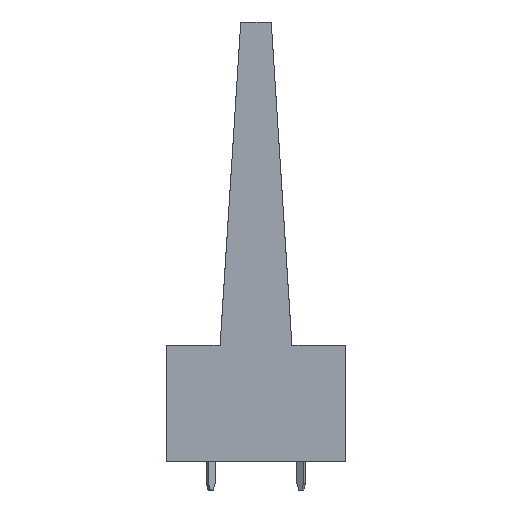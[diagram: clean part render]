
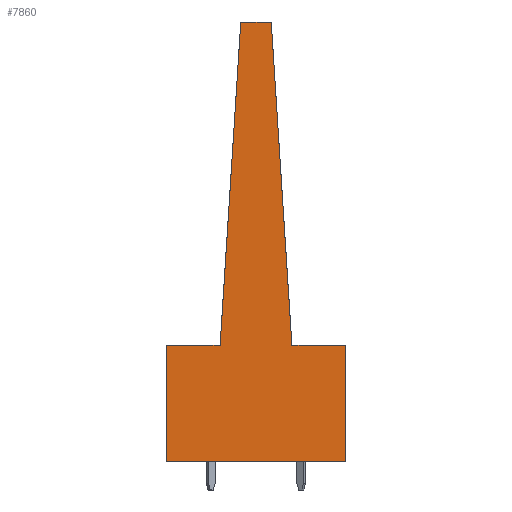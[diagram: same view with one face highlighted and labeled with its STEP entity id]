
A CAD part, left-side view. The second image highlights one B-rep face of the part: STEP entity #7860.
In plain terms, the highlighted planar face has unit normal (-1, 0, 0).
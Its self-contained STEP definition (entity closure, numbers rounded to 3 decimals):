
#152=CARTESIAN_POINT('',(-63.411,15.448,-14.5));
#153=VERTEX_POINT('',#152);
#154=CARTESIAN_POINT('',(-63.411,13.148,21.5));
#155=VERTEX_POINT('',#154);
#156=CARTESIAN_POINT('',(-63.411,13.148,21.5));
#157=DIRECTION('',(0.,0.064,-0.998));
#158=VECTOR('',#157,36.073);
#159=LINE('',#156,#158);
#160=EDGE_CURVE('',#153,#155,#159,.F.);
#247=CARTESIAN_POINT('',(-63.411,9.748,21.5));
#248=VERTEX_POINT('',#247);
#249=CARTESIAN_POINT('',(-63.411,13.148,21.5));
#250=DIRECTION('',(0.,-1.0,0.));
#251=VECTOR('',#250,3.4);
#252=LINE('',#249,#251);
#253=EDGE_CURVE('',#155,#248,#252,.T.);
#271=CARTESIAN_POINT('',(-63.411,7.448,-14.5));
#272=VERTEX_POINT('',#271);
#305=CARTESIAN_POINT('',(-63.411,7.448,-14.5));
#306=DIRECTION('',(0.,0.064,0.998));
#307=VECTOR('',#306,36.073);
#308=LINE('',#305,#307);
#309=EDGE_CURVE('',#248,#272,#308,.F.);
#1874=CARTESIAN_POINT('',(-63.411,1.448,-14.5));
#1875=VERTEX_POINT('',#1874);
#1876=CARTESIAN_POINT('',(-63.411,7.448,-14.5));
#1877=DIRECTION('',(0.0,-1.0,0.0));
#1878=VECTOR('',#1877,6.);
#1879=LINE('',#1876,#1878);
#1880=EDGE_CURVE('',#272,#1875,#1879,.T.);
#1914=CARTESIAN_POINT('',(-63.411,21.448,-14.5));
#1915=VERTEX_POINT('',#1914);
#1922=CARTESIAN_POINT('',(-63.411,21.448,-14.5));
#1923=DIRECTION('',(0.0,-1.0,0.0));
#1924=VECTOR('',#1923,6.);
#1925=LINE('',#1922,#1924);
#1926=EDGE_CURVE('',#1915,#153,#1925,.T.);
#1940=CARTESIAN_POINT('',(-63.411,1.448,-27.5));
#1941=VERTEX_POINT('',#1940);
#1942=CARTESIAN_POINT('',(-63.411,1.448,-27.5));
#1943=DIRECTION('',(0.0,0.0,1.0));
#1944=VECTOR('',#1943,13.);
#1945=LINE('',#1942,#1944);
#1946=EDGE_CURVE('',#1941,#1875,#1945,.T.);
#2166=CARTESIAN_POINT('',(-63.411,21.448,-27.5));
#2167=VERTEX_POINT('',#2166);
#2174=CARTESIAN_POINT('',(-63.411,21.448,-14.5));
#2175=DIRECTION('',(0.0,0.0,-1.0));
#2176=VECTOR('',#2175,13.);
#2177=LINE('',#2174,#2176);
#2178=EDGE_CURVE('',#2167,#1915,#2177,.F.);
#2319=CARTESIAN_POINT('',(-63.411,21.448,-27.5));
#2320=DIRECTION('',(0.0,-1.0,0.0));
#2321=VECTOR('',#2320,20.);
#2322=LINE('',#2319,#2321);
#2323=EDGE_CURVE('',#2167,#1941,#2322,.T.);
#7845=CARTESIAN_POINT('',(-63.411,21.448,-14.5));
#7846=DIRECTION('',(-1.0,0.0,0.0));
#7847=DIRECTION('',(0.0,0.0,1.0));
#7848=AXIS2_PLACEMENT_3D('',#7845,#7846,#7847);
#7849=PLANE('',#7848);
#7850=ORIENTED_EDGE('',*,*,#1946,.T.);
#7851=ORIENTED_EDGE('',*,*,#1880,.F.);
#7852=ORIENTED_EDGE('',*,*,#309,.F.);
#7853=ORIENTED_EDGE('',*,*,#253,.F.);
#7854=ORIENTED_EDGE('',*,*,#160,.F.);
#7855=ORIENTED_EDGE('',*,*,#1926,.F.);
#7856=ORIENTED_EDGE('',*,*,#2178,.F.);
#7857=ORIENTED_EDGE('',*,*,#2323,.T.);
#7858=EDGE_LOOP('',(#7850,#7851,#7852,#7853,#7854,#7855,#7856,#7857));
#7859=FACE_OUTER_BOUND('',#7858,.T.);
#7860=ADVANCED_FACE('',(#7859),#7849,.T.);
